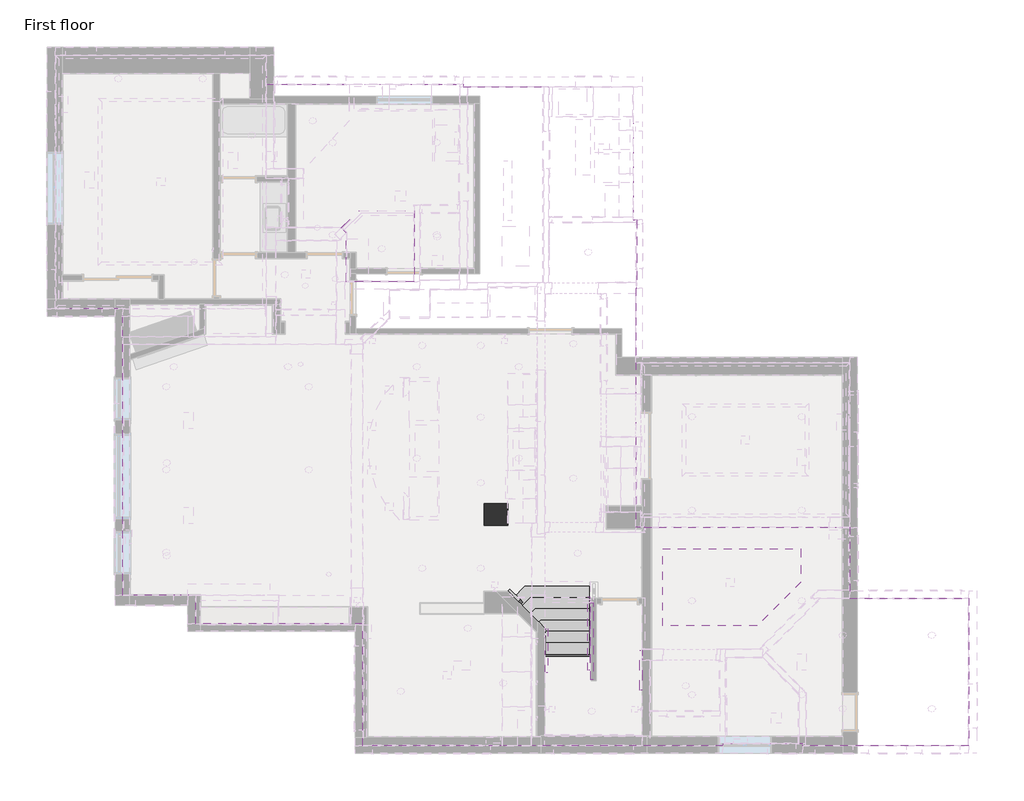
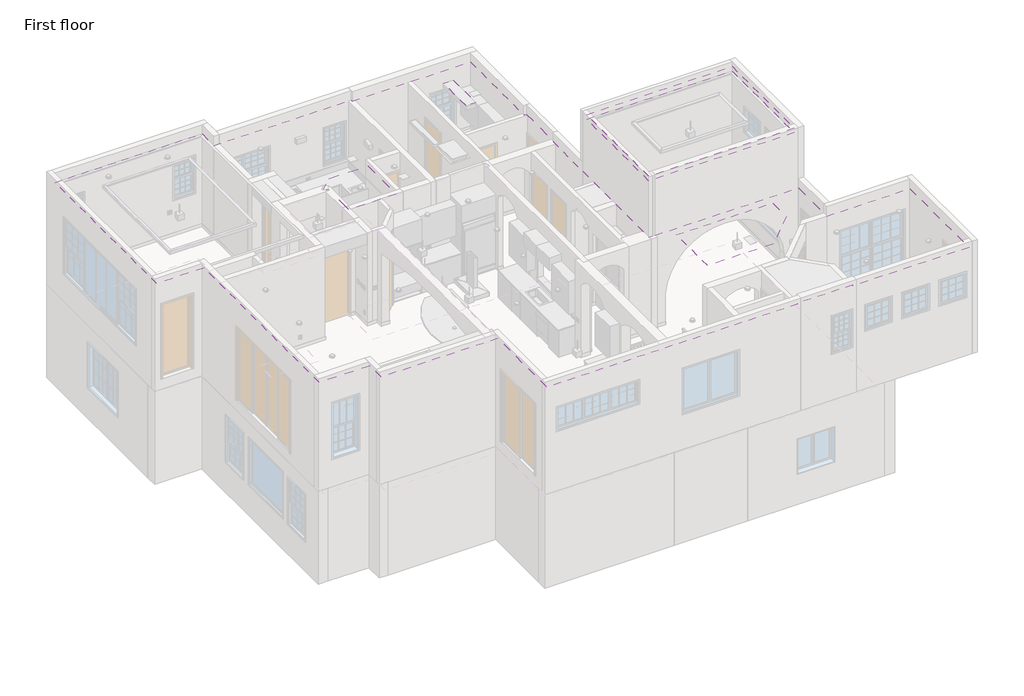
# One storey, part 10 of 14: 6 coverings, 5 railings, 1 column, 1 stair flight.
"""IFC4 building model written with IfcOpenShell, lengths in millimetres."""

from ifc_helpers import new_model, si_unit, frame, origin, place, context, project, spatial, polyline, circle_curve, outline, extrude, faceted_brep, transform, mapped, element, save
from ifc_brep_helpers import plane_surface, revolved_surface, advanced_brep
from components import railing_4_8abb609a, railing_4_2_75915b71, railing_4_2_93178abc, railing_4_3_2b835bbb, stair_flight_4c4e7644

model = new_model("IFC4")

# Units and contexts
model_context = context("Model", 3, world=origin())
ifc_project = project(units=[si_unit("LENGTHUNIT", "METRE", prefix="MILLI")], contexts=[model_context])

# Site, building, storey
site = spatial("IfcSite", under=ifc_project)
building = spatial("IfcBuilding", under=site)
storey = spatial("IfcBuildingStorey", under=building, Name="First floor", Elevation=0.0)

# Column
placement = place(None, origin())
element("IfcColumn", 1, ObjectType="M_Rectangular Column : 475 x 610mm", at=placement, inside=storey, context=model_context, shape_type="Brep", body=[
    faceted_brep([(3302.0, 5397.5, 2565.4), (2794.0, 5397.5, 2565.4), (2794.0, 4940.3, 2565.4), (3302.0, 4940.3, 2565.4), (3302.0, 5397.5, 0.0), (3302.0, 4940.3, 0.0), (2794.0, 4940.3, 0.0), (2794.0, 5397.5, 0.0), (3302.0, 5397.5, 127.0), (2794.0, 5397.5, 127.0), (2794.0, 4940.3, 127.0), (3302.0, 4940.3, 127.0)], [[[0, 1, 2, 3]], [[4, 5, 6, 7]], [[1, 0, 8, 4, 7, 9]], [[2, 1, 9, 7, 6, 10]], [[3, 2, 10, 6, 5, 11]], [[0, 3, 11, 5, 4, 8]]]),
])

# Coverings
element("IfcCovering", 2, ObjectType="Ceiling_12\"", at=placement, inside=storey, context=model_context, shape_type="AdvancedBrep", body=[
    advanced_brep(
    [(-1924.05, 15113.0, 6604.0), (-6496.05, 15113.0, 6604.0), (-6496.05, 9626.6, 6604.0), (-5029.2, 9626.6, 6604.0), (-5029.2, 3416.3, 6604.0), (-3454.4, 3416.3, 6604.0), (-3454.4, 2806.7, 6604.0), (165.1, 2806.7, 6604.0), (165.1, 165.1, 6604.0), (7956.55, 165.1, 6604.0), (7956.55, 203.2, 6604.0), (9683.75, 203.2, 6604.0), (9683.75, 165.1, 6604.0), (13284.2, 165.1, 6604.0), (13284.2, 3359.15, 6604.0), (10706.1, 3359.15, 6604.0), (10706.1, 4889.5001027, 6604.0), (6261.0999991, 4889.5001027, 6604.0), (6261.0999991, 4902.0947939, 6604.0), (6070.5999991, 4902.0947939, 6604.0), (6070.6, 8458.2, 6604.0), (6070.6, 10064.6447939, 6604.0), (6096.0, 10064.6447939, 6604.0), (6096.0, 11550.5447939, 6604.0), (6019.8, 11550.5447939, 6604.0), (6019.8, 14427.0947939, 6604.0), (2343.15, 14427.0947939, 6604.0), (2343.15, 14477.8947939, 6604.0), (-1924.05, 14477.8947939, 6604.0), (9639.3, 4432.3001027, 6604.0), (9639.3, 3697.7544094, 6604.0), (8697.4455906, 2755.9, 6604.0), (6654.8, 2755.9, 6604.0), (6654.8, 4432.3001027, 6604.0), (4778.2757813, 13727.8027641, 6604.0), (5083.0757813, 13727.8027641, 6604.0), (5083.0757813, 12508.6027641, 6604.0), (4778.2757813, 12508.6027641, 6604.0), (-2863.85, 10566.4, 6604.0), (-5556.25, 10566.4, 6604.0), (-5556.25, 14173.2, 6604.0), (-2863.85, 14173.2, 6604.0), (-6496.05, 15113.0, 6299.2), (-1924.05, 15113.0, 6299.2), (-1924.05, 14477.8947939, 6299.2), (2343.15, 14477.8947939, 6299.2), (2343.15, 14427.0947939, 6299.2), (6019.8, 14427.0947939, 6299.2), (6019.8, 11550.5447939, 6299.2), (6096.0, 11550.5447939, 6299.2), (6096.0, 10064.6447939, 6299.2), (6070.6, 10064.6447939, 6299.2), (6070.6, 8458.2, 6299.2), (6070.5999991, 4902.0947939, 6299.2), (6261.0999991, 4902.0947939, 6299.2), (6261.0999991, 4889.5001027, 6299.2), (10706.1, 4889.5001027, 6299.2), (10706.1, 3359.15, 6299.2), (13284.2, 3359.15, 6299.2), (13284.2, 165.1, 6299.2), (9683.75, 165.1, 6299.2), (9683.75, 203.2, 6299.2), (7956.55, 203.2, 6299.2), (7956.55, 165.1, 6299.2), (165.1, 165.1, 6299.2), (165.1, 2806.7, 6299.2), (-3454.4, 2806.7, 6299.2), (-3454.4, 3416.3, 6299.2), (-5029.2, 3416.3, 6299.2), (-5029.2, 9626.6, 6299.2), (-6496.05, 9626.6, 6299.2), (12547.5996069, 965.1845759, 6299.2), (12420.5996069, 965.1855584, 6299.2), (12547.5996069, 2559.0345759, 6299.2), (12420.5996069, 2559.0355584, 6299.2), (10617.1996069, 2559.0345759, 6299.2), (10490.1996069, 2559.0355584, 6299.2), (10617.1996069, 965.1845759, 6299.2), (10490.1996069, 965.1855584, 6299.2), (7213.6, 1460.4999136, 6299.2), (7086.6, 1460.5000864, 6299.2), (5181.6, 914.4009876, 6299.2), (5054.6, 914.3990124, 6299.2), (5105.4, 5219.5947939, 6299.2), (5105.4, 9728.0947939, 6299.2), (4318.0, 9728.0947939, 6299.2), (4318.0, 5219.5947939, 6299.2), (5105.4, 10845.6947939, 6299.2), (4978.4, 10845.6947939, 6299.2), (1841.5, 11176.0, 6299.2), (1714.5, 11176.0, 6299.2), (9639.3, 3697.7544094, 6299.2), (9639.3, 4432.3001027, 6299.2), (6654.8, 4432.3001027, 6299.2), (6654.8, 2755.9, 6299.2), (8697.4455906, 2755.9, 6299.2), (-5556.25, 10566.4, 6299.2), (-2863.85, 10566.4, 6299.2), (-2863.85, 14173.2, 6299.2), (-5556.25, 14173.2, 6299.2), (5083.0757813, 13727.8027641, 6299.2), (4778.2757813, 13727.8027641, 6299.2), (4778.2757813, 12508.6027641, 6299.2), (5083.0757813, 12508.6027641, 6299.2), (3721.1, 11353.6947939, 6299.2), (3238.5, 11353.6947939, 6299.2), (3238.5, 10591.6947939, 6299.2), (3721.1, 10591.6947939, 6299.2), (-920.75, 13626.9947939, 6299.2), (-920.75, 13753.9947939, 6299.2), (-5124.45, 14541.5, 6299.2), (-5124.45, 14668.5, 6299.2), (-3295.65, 14541.5, 6299.2), (-3295.65, 14668.5, 6299.2), (12420.5996069, 965.1855584, 6337.3), (12547.5996069, 965.1845759, 6337.3), (12420.5996069, 2559.0355584, 6337.3), (12547.5996069, 2559.0345759, 6337.3), (10490.1996069, 2559.0355584, 6337.3), (10617.1996069, 2559.0345759, 6337.3), (10490.1996069, 965.1855584, 6337.3), (10617.1996069, 965.1845759, 6337.3), (7086.6, 1460.5000864, 6337.3), (7213.6, 1460.4999136, 6337.3), (5054.6, 914.3990124, 6337.3), (5181.6, 914.4009876, 6337.3), (5105.4, 5219.5947939, 6451.6), (4318.0, 5219.5947939, 6451.6), (4318.0, 9728.0947939, 6451.6), (5105.4, 9728.0947939, 6451.6), (4660.8951375, 5956.2153351, 6451.6), (4787.8951375, 5956.2116994, 6451.6), (4660.9020444, 8864.4849772, 6451.6), (4787.9020443, 8864.4813416, 6451.6), (4787.8951375, 5956.2116994, 6489.7), (4660.8951375, 5956.2153351, 6489.7), (4787.9020443, 8864.4813416, 6489.7), (4660.9020444, 8864.4849772, 6489.7), (4978.4, 10845.6947939, 6337.3), (5105.4, 10845.6947939, 6337.3), (1714.5, 11176.0, 6337.3), (1841.5, 11176.0, 6337.3), (9639.3, 4432.3001027, 6451.6), (9639.3, 3697.7544094, 6451.6), (8697.4455906, 2755.9, 6451.6), (6654.8, 2755.9, 6451.6), (6654.8, 4432.3001027, 6451.6), (-2863.85, 10566.4, 6451.6), (-5556.25, 10566.4, 6451.6), (-5556.25, 14173.2, 6451.6), (-2863.85, 14173.2, 6451.6), (4778.2757813, 13727.8027641, 6451.6), (5083.0757813, 13727.8027641, 6451.6), (5083.0757813, 12508.6027641, 6451.6), (4778.2757813, 12508.6027641, 6451.6), (3238.5, 11353.6947939, 6400.8), (3721.1, 11353.6947939, 6400.8), (3721.1, 10591.6947939, 6400.8), (3238.5, 10591.6947939, 6400.8), (-920.75, 13753.9947939, 6337.3), (-920.75, 13626.9947939, 6337.3), (-5124.45, 14668.5, 6337.3), (-5124.45, 14541.5, 6337.3), (-3295.65, 14668.5, 6337.3), (-3295.65, 14541.5, 6337.3)],
    [
        (0, 1),
        (1, 2),
        (2, 3),
        (3, 4),
        (4, 5),
        (5, 6),
        (6, 7),
        (7, 8),
        (8, 9),
        (9, 10),
        (10, 11),
        (11, 12),
        (12, 13),
        (13, 14),
        (14, 15),
        (15, 16),
        (16, 17),
        (17, 18),
        (18, 19),
        (19, 20),
        (20, 21),
        (21, 22),
        (22, 23),
        (23, 24),
        (24, 25),
        (25, 26),
        (26, 27),
        (27, 28),
        (28, 0),
        (29, 30),
        (30, 31),
        (31, 32),
        (32, 33),
        (33, 29),
        (34, 35),
        (35, 36),
        (36, 37),
        (37, 34),
        (38, 39),
        (39, 40),
        (40, 41),
        (41, 38),
        (42, 43),
        (43, 44),
        (44, 45),
        (45, 46),
        (46, 47),
        (47, 48),
        (48, 49),
        (49, 50),
        (50, 51),
        (51, 52),
        (52, 53),
        (53, 54),
        (54, 55),
        (55, 56),
        (56, 57),
        (57, 58),
        (58, 59),
        (59, 60),
        (60, 61),
        (61, 62),
        (62, 63),
        (63, 64),
        (64, 65),
        (65, 66),
        (66, 67),
        (67, 68),
        (68, 69),
        (69, 70),
        (70, 42),
        (71, 72, circle_curve(frame((12484.0996069, 965.1850671, 6299.2), z_axis=(0.0, 0.0, 1.0), x_axis=(0.99999999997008, -7.7356313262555e-06, 0.0)), 63.5)),
        (72, 71, circle_curve(frame((12484.0996069, 965.1850671, 6299.2), z_axis=(0.0, 0.0, 1.0), x_axis=(0.99999999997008, -7.7356313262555e-06, 0.0)), 63.5)),
        (73, 74, circle_curve(frame((12484.0996069, 2559.0350671, 6299.2), z_axis=(0.0, 0.0, 1.0), x_axis=(0.99999999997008, -7.7356313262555e-06, 0.0)), 63.5)),
        (74, 73, circle_curve(frame((12484.0996069, 2559.0350671, 6299.2), z_axis=(0.0, 0.0, 1.0), x_axis=(0.99999999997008, -7.7356313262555e-06, 0.0)), 63.5)),
        (75, 76, circle_curve(frame((10553.6996069, 2559.0350671, 6299.2), z_axis=(0.0, 0.0, 1.0), x_axis=(0.99999999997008, -7.7356313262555e-06, 0.0)), 63.5)),
        (76, 75, circle_curve(frame((10553.6996069, 2559.0350671, 6299.2), z_axis=(0.0, 0.0, 1.0), x_axis=(0.99999999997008, -7.7356313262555e-06, 0.0)), 63.5)),
        (77, 78, circle_curve(frame((10553.6996069, 965.1850671, 6299.2), z_axis=(0.0, 0.0, 1.0), x_axis=(0.99999999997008, -7.7356313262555e-06, 0.0)), 63.5)),
        (78, 77, circle_curve(frame((10553.6996069, 965.1850671, 6299.2), z_axis=(0.0, 0.0, 1.0), x_axis=(0.99999999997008, -7.7356313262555e-06, 0.0)), 63.5)),
        (79, 80, circle_curve(frame((7150.1, 1460.5, 6299.2), z_axis=(0.0, 0.0, 1.0), x_axis=(0.9999999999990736, -1.3611479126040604e-06, 0.0)), 63.5)),
        (80, 79, circle_curve(frame((7150.1, 1460.5, 6299.2), z_axis=(0.0, 0.0, 1.0), x_axis=(0.9999999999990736, -1.3611479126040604e-06, 0.0)), 63.5)),
        (81, 82, circle_curve(frame((5118.1, 914.4, 6299.2), z_axis=(0.0, 0.0, 1.0), x_axis=(0.999999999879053, 1.5552947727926e-05, 0.0)), 63.5)),
        (82, 81, circle_curve(frame((5118.1, 914.4, 6299.2), z_axis=(0.0, 0.0, 1.0), x_axis=(0.999999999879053, 1.5552947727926e-05, 0.0)), 63.5)),
        (83, 84),
        (84, 85),
        (85, 86),
        (86, 83),
        (87, 88, circle_curve(frame((5041.9, 10845.6947939, 6299.2), z_axis=(0.0, 0.0, 1.0), x_axis=(1.0, 0.0, 0.0)), 63.5)),
        (88, 87, circle_curve(frame((5041.9, 10845.6947939, 6299.2), z_axis=(0.0, 0.0, 1.0), x_axis=(1.0, 0.0, 0.0)), 63.5)),
        (89, 90, circle_curve(frame((1778.0, 11176.0, 6299.2), z_axis=(0.0, 0.0, 1.0), x_axis=(1.0, 0.0, 0.0)), 63.5)),
        (90, 89, circle_curve(frame((1778.0, 11176.0, 6299.2), z_axis=(0.0, 0.0, 1.0), x_axis=(1.0, 0.0, 0.0)), 63.5)),
        (91, 92),
        (92, 93),
        (93, 94),
        (94, 95),
        (95, 91),
        (96, 97),
        (97, 98),
        (98, 99),
        (99, 96),
        (100, 101),
        (101, 102),
        (102, 103),
        (103, 100),
        (104, 105),
        (105, 106),
        (106, 107),
        (107, 104),
        (108, 109, circle_curve(frame((-920.75, 13690.4947939, 6299.2), z_axis=(0.0, 0.0, 1.0), x_axis=(0.0, -1.0, 0.0)), 63.5)),
        (109, 108, circle_curve(frame((-920.75, 13690.4947939, 6299.2), z_axis=(0.0, 0.0, 1.0), x_axis=(0.0, -1.0, 0.0)), 63.5)),
        (110, 111, circle_curve(frame((-5124.45, 14605.0, 6299.2), z_axis=(0.0, 0.0, 1.0), x_axis=(0.0, -1.0, 0.0)), 63.5)),
        (111, 110, circle_curve(frame((-5124.45, 14605.0, 6299.2), z_axis=(0.0, 0.0, 1.0), x_axis=(0.0, -1.0, 0.0)), 63.5)),
        (112, 113, circle_curve(frame((-3295.65, 14605.0, 6299.2), z_axis=(0.0, 0.0, 1.0), x_axis=(0.0, -1.0, 0.0)), 63.5)),
        (113, 112, circle_curve(frame((-3295.65, 14605.0, 6299.2), z_axis=(0.0, 0.0, 1.0), x_axis=(0.0, -1.0, 0.0)), 63.5)),
        (0, 43),
        (42, 1),
        (70, 2),
        (69, 3),
        (68, 4),
        (67, 5),
        (66, 6),
        (65, 7),
        (64, 8),
        (63, 9),
        (62, 10),
        (61, 11),
        (16, 56),
        (55, 17),
        (19, 53),
        (52, 20),
        (51, 21),
        (50, 22),
        (49, 23),
        (48, 24),
        (47, 25),
        (28, 44),
        (60, 12),
        (59, 13),
        (58, 14),
        (57, 15),
        (46, 26),
        (45, 27),
        (114, 115, circle_curve(frame((12484.0996069, 965.1850671, 6337.3), z_axis=(0.0, 0.0, -1.0), x_axis=(0.99999999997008, -7.7356313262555e-06, 0.0)), 63.5)),
        (115, 114, circle_curve(frame((12484.0996069, 965.1850671, 6337.3), z_axis=(0.0, 0.0, -1.0), x_axis=(0.99999999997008, -7.7356313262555e-06, 0.0)), 63.5)),
        (114, 72),
        (71, 115),
        (116, 117, circle_curve(frame((12484.0996069, 2559.0350671, 6337.3), z_axis=(0.0, 0.0, -1.0), x_axis=(0.99999999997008, -7.7356313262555e-06, 0.0)), 63.5)),
        (117, 116, circle_curve(frame((12484.0996069, 2559.0350671, 6337.3), z_axis=(0.0, 0.0, -1.0), x_axis=(0.99999999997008, -7.7356313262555e-06, 0.0)), 63.5)),
        (116, 74),
        (73, 117),
        (118, 119, circle_curve(frame((10553.6996069, 2559.0350671, 6337.3), z_axis=(0.0, 0.0, -1.0), x_axis=(0.99999999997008, -7.7356313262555e-06, 0.0)), 63.5)),
        (119, 118, circle_curve(frame((10553.6996069, 2559.0350671, 6337.3), z_axis=(0.0, 0.0, -1.0), x_axis=(0.99999999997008, -7.7356313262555e-06, 0.0)), 63.5)),
        (118, 76),
        (75, 119),
        (120, 121, circle_curve(frame((10553.6996069, 965.1850671, 6337.3), z_axis=(0.0, 0.0, -1.0), x_axis=(0.99999999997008, -7.7356313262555e-06, 0.0)), 63.5)),
        (121, 120, circle_curve(frame((10553.6996069, 965.1850671, 6337.3), z_axis=(0.0, 0.0, -1.0), x_axis=(0.99999999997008, -7.7356313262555e-06, 0.0)), 63.5)),
        (120, 78),
        (77, 121),
        (122, 123, circle_curve(frame((7150.1, 1460.5, 6337.3), z_axis=(0.0, 0.0, -1.0), x_axis=(0.9999999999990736, -1.3611479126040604e-06, 0.0)), 63.5)),
        (123, 122, circle_curve(frame((7150.1, 1460.5, 6337.3), z_axis=(0.0, 0.0, -1.0), x_axis=(0.9999999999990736, -1.3611479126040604e-06, 0.0)), 63.5)),
        (122, 80),
        (79, 123),
        (124, 125, circle_curve(frame((5118.1, 914.4, 6337.3), z_axis=(0.0, 0.0, -1.0), x_axis=(0.999999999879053, 1.5552947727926e-05, 0.0)), 63.5)),
        (125, 124, circle_curve(frame((5118.1, 914.4, 6337.3), z_axis=(0.0, 0.0, -1.0), x_axis=(0.999999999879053, 1.5552947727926e-05, 0.0)), 63.5)),
        (124, 82),
        (81, 125),
        (126, 127),
        (127, 128),
        (128, 129),
        (129, 126),
        (130, 131, circle_curve(frame((4724.3951375, 5956.2135172, 6451.6), z_axis=(0.0, 0.0, 1.0), x_axis=(-0.9999999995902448, 2.862709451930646e-05, 0.0)), 63.5)),
        (131, 130, circle_curve(frame((4724.3951375, 5956.2135172, 6451.6), z_axis=(0.0, 0.0, 1.0), x_axis=(-0.9999999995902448, 2.862709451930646e-05, 0.0)), 63.5)),
        (132, 133, circle_curve(frame((4724.4020444, 8864.4831594, 6451.6), z_axis=(0.0, 0.0, 1.0), x_axis=(-0.9999999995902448, 2.862709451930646e-05, 0.0)), 63.5)),
        (133, 132, circle_curve(frame((4724.4020444, 8864.4831594, 6451.6), z_axis=(0.0, 0.0, 1.0), x_axis=(-0.9999999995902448, 2.862709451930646e-05, 0.0)), 63.5)),
        (129, 84),
        (83, 126),
        (128, 85),
        (127, 86),
        (134, 135, circle_curve(frame((4724.3951375, 5956.2135172, 6489.7), z_axis=(0.0, 0.0, -1.0), x_axis=(-0.9999999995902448, 2.862709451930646e-05, 0.0)), 63.5)),
        (135, 134, circle_curve(frame((4724.3951375, 5956.2135172, 6489.7), z_axis=(0.0, 0.0, -1.0), x_axis=(-0.9999999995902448, 2.862709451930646e-05, 0.0)), 63.5)),
        (134, 131),
        (130, 135),
        (136, 137, circle_curve(frame((4724.4020444, 8864.4831594, 6489.7), z_axis=(0.0, 0.0, -1.0), x_axis=(-0.9999999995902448, 2.862709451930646e-05, 0.0)), 63.5)),
        (137, 136, circle_curve(frame((4724.4020444, 8864.4831594, 6489.7), z_axis=(0.0, 0.0, -1.0), x_axis=(-0.9999999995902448, 2.862709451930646e-05, 0.0)), 63.5)),
        (136, 133),
        (132, 137),
        (138, 139, circle_curve(frame((5041.9, 10845.6947939, 6337.3), z_axis=(0.0, 0.0, -1.0), x_axis=(1.0, 0.0, 0.0)), 63.5)),
        (139, 138, circle_curve(frame((5041.9, 10845.6947939, 6337.3), z_axis=(0.0, 0.0, -1.0), x_axis=(1.0, 0.0, 0.0)), 63.5)),
        (138, 88),
        (87, 139),
        (140, 141, circle_curve(frame((1778.0, 11176.0, 6337.3), z_axis=(0.0, 0.0, -1.0), x_axis=(1.0, 0.0, 0.0)), 63.5)),
        (141, 140, circle_curve(frame((1778.0, 11176.0, 6337.3), z_axis=(0.0, 0.0, -1.0), x_axis=(1.0, 0.0, 0.0)), 63.5)),
        (140, 90),
        (89, 141),
        (29, 142),
        (142, 92),
        (91, 143),
        (143, 30),
        (95, 144),
        (144, 31),
        (94, 145),
        (145, 32),
        (93, 146),
        (146, 33),
        (38, 147),
        (147, 97),
        (96, 148),
        (148, 39),
        (99, 149),
        (149, 40),
        (98, 150),
        (150, 41),
        (34, 151),
        (151, 101),
        (100, 152),
        (152, 35),
        (103, 153),
        (153, 36),
        (102, 154),
        (154, 37),
        (155, 156),
        (156, 157),
        (157, 158),
        (158, 155),
        (155, 105),
        (104, 156),
        (107, 157),
        (106, 158),
        (159, 160, circle_curve(frame((-920.75, 13690.4947939, 6337.3), z_axis=(0.0, 0.0, -1.0), x_axis=(0.0, -1.0, 0.0)), 63.5)),
        (160, 159, circle_curve(frame((-920.75, 13690.4947939, 6337.3), z_axis=(0.0, 0.0, -1.0), x_axis=(0.0, -1.0, 0.0)), 63.5)),
        (159, 109),
        (108, 160),
        (161, 162, circle_curve(frame((-5124.45, 14605.0, 6337.3), z_axis=(0.0, 0.0, -1.0), x_axis=(0.0, -1.0, 0.0)), 63.5)),
        (162, 161, circle_curve(frame((-5124.45, 14605.0, 6337.3), z_axis=(0.0, 0.0, -1.0), x_axis=(0.0, -1.0, 0.0)), 63.5)),
        (161, 111),
        (110, 162),
        (163, 164, circle_curve(frame((-3295.65, 14605.0, 6337.3), z_axis=(0.0, 0.0, -1.0), x_axis=(0.0, -1.0, 0.0)), 63.5)),
        (164, 163, circle_curve(frame((-3295.65, 14605.0, 6337.3), z_axis=(0.0, 0.0, -1.0), x_axis=(0.0, -1.0, 0.0)), 63.5)),
        (163, 113),
        (112, 164),
        (54, 18),
    ],
    [
        plane_surface(frame((-6496.05, 15113.0, 6604.0), z_axis=(0.0, 0.0, 1.0), x_axis=(-1.0, 0.0, 0.0))),
        plane_surface(frame((-6496.05, 15113.0, 6299.2), z_axis=(0.0, 0.0, -1.0), x_axis=(1.0, 0.0, 0.0))),
        plane_surface(frame((-1924.05, 15113.0, 6604.0), z_axis=(0.0, 1.0, 0.0), x_axis=(0.0, 0.0, -1.0))),
        plane_surface(frame((-6496.05, 15113.0, 6604.0), z_axis=(-1.0, 0.0, 0.0), x_axis=(0.0, 0.0, -1.0))),
        plane_surface(frame((-6496.05, 9626.6, 6604.0), z_axis=(0.0, -1.0, 0.0), x_axis=(0.0, 0.0, -1.0))),
        plane_surface(frame((-5029.2, 9626.6, 6604.0), z_axis=(-1.0, 0.0, 0.0), x_axis=(0.0, 0.0, -1.0))),
        plane_surface(frame((-5029.2, 3416.3, 6604.0), z_axis=(0.0, -1.0, 0.0), x_axis=(0.0, 0.0, -1.0))),
        plane_surface(frame((-3454.4, 3416.3, 6604.0), z_axis=(-1.0, 0.0, 0.0), x_axis=(0.0, 0.0, -1.0))),
        plane_surface(frame((-3454.4, 2806.7, 6604.0), z_axis=(0.0, -1.0, 0.0), x_axis=(0.0, 0.0, -1.0))),
        plane_surface(frame((165.1, 2806.7, 6604.0), z_axis=(-1.0, 0.0, 0.0), x_axis=(0.0, 0.0, -1.0))),
        plane_surface(frame((165.1, 165.1, 6604.0), z_axis=(0.0, -1.0, 0.0), x_axis=(0.0, 0.0, -1.0))),
        plane_surface(frame((7956.55, 165.1, 6604.0), z_axis=(1.0, 0.0, 0.0), x_axis=(0.0, 0.0, -1.0))),
        plane_surface(frame((7956.55, 203.2, 6604.0), z_axis=(0.0, -1.0, 0.0), x_axis=(0.0, 0.0, -1.0))),
        plane_surface(frame((10706.1, 4889.5001027, 6604.0), z_axis=(0.0, 1.0, 0.0), x_axis=(0.0, 0.0, -1.0))),
        plane_surface(frame((6070.5999991, 4902.0947939, 6604.0), z_axis=(1.0, -2.630384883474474e-10, 0.0), x_axis=(0.0, 0.0, -1.0))),
        plane_surface(frame((6070.6, 8458.2, 6604.0), z_axis=(1.0, 0.0, 0.0), x_axis=(0.0, 0.0, -1.0))),
        plane_surface(frame((6070.6, 10064.6447939, 6604.0), z_axis=(0.0, -1.0, 0.0), x_axis=(0.0, 0.0, -1.0))),
        plane_surface(frame((6096.0, 10064.6447939, 6604.0), z_axis=(1.0, 0.0, 0.0), x_axis=(0.0, 0.0, -1.0))),
        plane_surface(frame((6096.0, 11550.5447939, 6604.0), z_axis=(0.0, 1.0, 0.0), x_axis=(0.0, 0.0, -1.0))),
        plane_surface(frame((6019.8, 11550.5447939, 6604.0), z_axis=(1.0, 0.0, 0.0), x_axis=(0.0, 0.0, -1.0))),
        plane_surface(frame((-1924.05, 14477.8947939, 6604.0), z_axis=(1.0, 0.0, 0.0), x_axis=(0.0, 0.0, -1.0))),
        plane_surface(frame((9683.75, 203.2, 6604.0), z_axis=(-1.0, 0.0, 0.0), x_axis=(0.0, 0.0, -1.0))),
        plane_surface(frame((9683.75, 165.1, 6604.0), z_axis=(0.0, -1.0, 0.0), x_axis=(0.0, 0.0, -1.0))),
        plane_surface(frame((13284.2, 165.1, 6604.0), z_axis=(1.0, 0.0, 0.0), x_axis=(0.0, 0.0, -1.0))),
        plane_surface(frame((13284.2, 3359.15, 6604.0), z_axis=(0.0, 1.0, 0.0), x_axis=(0.0, 0.0, -1.0))),
        plane_surface(frame((10706.1, 3359.15, 6604.0), z_axis=(1.0, 0.0, 0.0), x_axis=(0.0, 0.0, -1.0))),
        plane_surface(frame((6019.8, 14427.0947939, 6604.0), z_axis=(0.0, 1.0, 0.0), x_axis=(0.0, 0.0, -1.0))),
        plane_surface(frame((2343.15, 14427.0947939, 6604.0), z_axis=(1.0, 0.0, 0.0), x_axis=(0.0, 0.0, -1.0))),
        plane_surface(frame((2343.15, 14477.8947939, 6604.0), z_axis=(0.0, 1.0, 0.0), x_axis=(0.0, 0.0, -1.0))),
        plane_surface(frame((12547.5996069, 965.1845759, 6337.3), z_axis=(0.0, 0.0, -1.0), x_axis=(7.7356313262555e-06, 0.99999999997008, 0.0))),
        revolved_surface(polyline([(12547.5996068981, 965.1845758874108, 6299.2), (12547.5996068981, 965.1845758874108, 6337.3)]), (12484.0996069, 965.1850671, 6337.3), (0.0, 0.0, -1.0)),
        plane_surface(frame((12547.5996069, 2559.0345759, 6337.3), z_axis=(0.0, 0.0, -1.0), x_axis=(7.7356313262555e-06, 0.99999999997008, 0.0))),
        revolved_surface(polyline([(12547.5996068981, 2559.034575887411, 6299.2), (12547.5996068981, 2559.034575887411, 6337.3)]), (12484.0996069, 2559.0350671, 6337.3), (0.0, 0.0, -1.0)),
        plane_surface(frame((10617.1996069, 2559.0345759, 6337.3), z_axis=(0.0, 0.0, -1.0), x_axis=(7.7356313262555e-06, 0.99999999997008, 0.0))),
        revolved_surface(polyline([(10617.1996068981, 2559.034575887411, 6299.2), (10617.1996068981, 2559.034575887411, 6337.3)]), (10553.6996069, 2559.0350671, 6337.3), (0.0, 0.0, -1.0)),
        plane_surface(frame((10617.1996069, 965.1845759, 6337.3), z_axis=(0.0, 0.0, -1.0), x_axis=(7.7356313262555e-06, 0.99999999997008, 0.0))),
        revolved_surface(polyline([(10617.1996068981, 965.1845758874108, 6299.2), (10617.1996068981, 965.1845758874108, 6337.3)]), (10553.6996069, 965.1850671, 6337.3), (0.0, 0.0, -1.0)),
        plane_surface(frame((7213.6, 1460.4999136, 6337.3), z_axis=(0.0, 0.0, -1.0), x_axis=(1.3611479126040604e-06, 0.9999999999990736, 0.0))),
        revolved_surface(polyline([(7213.599999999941, 1460.4999135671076, 6299.2), (7213.599999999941, 1460.4999135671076, 6337.3)]), (7150.1, 1460.5, 6337.3), (0.0, 0.0, -1.0)),
        plane_surface(frame((5181.6, 914.4009876, 6337.3), z_axis=(0.0, 0.0, -1.0000000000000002), x_axis=(-1.5552947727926e-05, 0.999999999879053, 0.0))),
        revolved_surface(polyline([(5181.599999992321, 914.4009876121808, 6299.2), (5181.599999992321, 914.4009876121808, 6337.3)]), (5118.1, 914.4, 6337.3), (0.0, 0.0, -1.0)),
        plane_surface(frame((5105.4, 9943.9947939, 6451.6), z_axis=(0.0, 0.0, -1.0), x_axis=(0.0, 1.0, 0.0))),
        plane_surface(frame((5105.4, 5219.5947939, 6451.6), z_axis=(-1.0, 0.0, 0.0), x_axis=(0.0, 0.0, -1.0))),
        plane_surface(frame((5105.4, 9728.0947939, 6451.6), z_axis=(0.0, -1.0, 0.0), x_axis=(0.0, 0.0, -1.0))),
        plane_surface(frame((4318.0, 9728.0947939, 6451.6), z_axis=(1.0, 0.0, 0.0), x_axis=(0.0, 0.0, -1.0))),
        plane_surface(frame((4318.0, 5219.5947939, 6451.6), z_axis=(0.0, 1.0, 0.0), x_axis=(0.0, 0.0, -1.0))),
        plane_surface(frame((4660.8951375, 5956.2153351, 6489.7), z_axis=(0.0, 0.0, -1.0), x_axis=(-2.862709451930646e-05, -0.9999999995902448, 0.0))),
        revolved_surface(polyline([(4660.895137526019, 5956.215335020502, 6451.6), (4660.895137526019, 5956.215335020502, 6489.7)]), (4724.3951375, 5956.2135172, 6489.7), (0.0, 0.0, -1.0)),
        plane_surface(frame((4660.9020444, 8864.4849772, 6489.7), z_axis=(0.0, 0.0, -1.0), x_axis=(-2.862709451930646e-05, -0.9999999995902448, 0.0))),
        revolved_surface(polyline([(4660.9020444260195, 8864.484977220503, 6451.6), (4660.9020444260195, 8864.484977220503, 6489.7)]), (4724.4020444, 8864.4831594, 6489.7), (0.0, 0.0, -1.0)),
        plane_surface(frame((5105.4, 10845.6947939, 6337.3), z_axis=(0.0, 0.0, -1.0), x_axis=(0.0, 1.0, 0.0))),
        revolved_surface(polyline([(5105.4, 10845.6947939, 6299.2), (5105.4, 10845.6947939, 6337.3)]), (5041.9, 10845.6947939, 6337.3), (0.0, 0.0, -1.0)),
        plane_surface(frame((1841.5, 11176.0, 6337.3), z_axis=(0.0, 0.0, -1.0), x_axis=(0.0, 1.0, 0.0))),
        revolved_surface(polyline([(1841.5, 11176.0, 6299.2), (1841.5, 11176.0, 6337.3)]), (1778.0, 11176.0, 6337.3), (0.0, 0.0, -1.0)),
        plane_surface(frame((9639.3, 4432.3001027, 6604.0), z_axis=(-1.0, 0.0, 0.0), x_axis=(0.0, 0.0, -1.0))),
        plane_surface(frame((9639.3, 3697.7544094, 6604.0), z_axis=(-0.7071067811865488, 0.7071067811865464, 0.0), x_axis=(0.0, 0.0, -1.0))),
        plane_surface(frame((8697.4455906, 2755.9, 6604.0), z_axis=(0.0, 1.0, 0.0), x_axis=(0.0, 0.0, -1.0))),
        plane_surface(frame((6654.8, 2755.9, 6604.0), z_axis=(1.0, 0.0, 0.0), x_axis=(0.0, 0.0, -1.0))),
        plane_surface(frame((6654.8, 4432.3001027, 6604.0), z_axis=(0.0, -1.0, 0.0), x_axis=(0.0, 0.0, -1.0))),
        plane_surface(frame((-2863.85, 10566.4, 6604.0), z_axis=(0.0, 1.0, 0.0), x_axis=(0.0, 0.0, -1.0))),
        plane_surface(frame((-5556.25, 10566.4, 6604.0), z_axis=(1.0, 0.0, 0.0), x_axis=(0.0, 0.0, -1.0))),
        plane_surface(frame((-5556.25, 14173.2, 6604.0), z_axis=(0.0, -1.0, 0.0), x_axis=(0.0, 0.0, -1.0))),
        plane_surface(frame((-2863.85, 14173.2, 6604.0), z_axis=(-1.0, 0.0, 0.0), x_axis=(0.0, 0.0, -1.0))),
        plane_surface(frame((4778.2757813, 13727.8027641, 6604.0), z_axis=(0.0, -1.0, 0.0), x_axis=(0.0, 0.0, -1.0))),
        plane_surface(frame((5083.0757813, 13727.8027641, 6604.0), z_axis=(-1.0, 0.0, 0.0), x_axis=(0.0, 0.0, -1.0))),
        plane_surface(frame((5083.0757813, 12508.6027641, 6604.0), z_axis=(0.0, 1.0, 0.0), x_axis=(0.0, 0.0, -1.0))),
        plane_surface(frame((4778.2757813, 12508.6027641, 6604.0), z_axis=(1.0, 0.0, 0.0), x_axis=(0.0, 0.0, -1.0))),
        plane_surface(frame((3721.1, 11353.6947939, 6400.8), z_axis=(0.0, 0.0, -1.0), x_axis=(-1.0, 0.0, 0.0))),
        plane_surface(frame((3238.5, 11353.6947939, 6299.2), z_axis=(0.0, -1.0, 0.0), x_axis=(0.0, 0.0, 1.0))),
        plane_surface(frame((3721.1, 11353.6947939, 6299.2), z_axis=(-1.0, 0.0, 0.0), x_axis=(0.0, 0.0, 1.0))),
        plane_surface(frame((3721.1, 10591.6947939, 6299.2), z_axis=(0.0, 1.0, 0.0), x_axis=(0.0, 0.0, 1.0))),
        plane_surface(frame((3238.5, 10591.6947939, 6299.2), z_axis=(1.0, 0.0, 0.0), x_axis=(0.0, 0.0, 1.0))),
        plane_surface(frame((-920.75, 13626.9947939, 6337.3), z_axis=(0.0, 0.0, -1.0), x_axis=(1.0, 0.0, 0.0))),
        revolved_surface(polyline([(-920.75, 13626.9947939, 6299.2), (-920.75, 13626.9947939, 6337.3)]), (-920.75, 13690.4947939, 6337.3), (0.0, 0.0, -1.0)),
        plane_surface(frame((-5124.45, 14541.5, 6337.3), z_axis=(0.0, 0.0, -1.0), x_axis=(1.0, 0.0, 0.0))),
        revolved_surface(polyline([(-5124.45, 14541.5, 6299.2), (-5124.45, 14541.5, 6337.3)]), (-5124.45, 14605.0, 6337.3), (0.0, 0.0, -1.0)),
        plane_surface(frame((-3295.65, 14541.5, 6337.3), z_axis=(0.0, 0.0, -1.0), x_axis=(1.0, 0.0, 0.0))),
        revolved_surface(polyline([(-3295.65, 14541.5, 6299.2), (-3295.65, 14541.5, 6337.3)]), (-3295.65, 14605.0, 6337.3), (0.0, 0.0, -1.0)),
        plane_surface(frame((6261.0999991, 4889.5001027, 6604.0), z_axis=(1.0, 0.0, 0.0), x_axis=(0.0, 0.0, -1.0))),
        plane_surface(frame((6261.0999991, 4902.0947939, 6604.0), z_axis=(0.0, 1.0, 0.0), x_axis=(0.0, 0.0, -1.0))),
    ],
    [
        (0, [[1, 2, 3, 4, 5, 6, 7, 8, 9, 10, 11, 12, 13, 14, 15, 16, 17, 18, 19, 20, 21, 22, 23, 24, 25, 26, 27, 28, 29], [30, 31, 32, 33, 34], [35, 36, 37, 38], [39, 40, 41, 42]]),
        (1, [[43, 44, 45, 46, 47, 48, 49, 50, 51, 52, 53, 54, 55, 56, 57, 58, 59, 60, 61, 62, 63, 64, 65, 66, 67, 68, 69, 70, 71], [72, 73], [74, 75], [76, 77], [78, 79], [80, 81], [82, 83], [84, 85, 86, 87], [88, 89], [90, 91], [92, 93, 94, 95, 96], [97, 98, 99, 100], [101, 102, 103, 104], [105, 106, 107, 108], [109, 110], [111, 112], [113, 114]]),
        (2, [[-1, 115, -43, 116]]),
        (3, [[-2, -116, -71, 117]]),
        (4, [[-3, -117, -70, 118]]),
        (5, [[-4, -118, -69, 119]]),
        (6, [[-5, -119, -68, 120]]),
        (7, [[-6, -120, -67, 121]]),
        (8, [[-7, -121, -66, 122]]),
        (9, [[-8, -122, -65, 123]]),
        (10, [[-9, -123, -64, 124]]),
        (11, [[-10, -124, -63, 125]]),
        (12, [[-11, -125, -62, 126]]),
        (13, [[-17, 127, -56, 128]]),
        (14, [[-20, 129, -53, 130]]),
        (15, [[-21, -130, -52, 131]]),
        (16, [[-22, -131, -51, 132]]),
        (17, [[-23, -132, -50, 133]]),
        (18, [[-24, -133, -49, 134]]),
        (19, [[-25, -134, -48, 135]]),
        (20, [[-29, 136, -44, -115]]),
        (21, [[-12, -126, -61, 137]]),
        (22, [[-13, -137, -60, 138]]),
        (23, [[-14, -138, -59, 139]]),
        (24, [[-15, -139, -58, 140]]),
        (25, [[-16, -140, -57, -127]]),
        (26, [[-26, -135, -47, 141]]),
        (27, [[-27, -141, -46, 142]]),
        (28, [[-28, -142, -45, -136]]),
        (29, [[143, 144]]),
        (30, [[-143, 145, -72, 146]]),
        (30, [[-144, -146, -73, -145]]),
        (31, [[147, 148]]),
        (32, [[-147, 149, -74, 150]]),
        (32, [[-148, -150, -75, -149]]),
        (33, [[151, 152]]),
        (34, [[-151, 153, -76, 154]]),
        (34, [[-152, -154, -77, -153]]),
        (35, [[155, 156]]),
        (36, [[-155, 157, -78, 158]]),
        (36, [[-156, -158, -79, -157]]),
        (37, [[159, 160]]),
        (38, [[-159, 161, -80, 162]]),
        (38, [[-160, -162, -81, -161]]),
        (39, [[163, 164]]),
        (40, [[-163, 165, -82, 166]]),
        (40, [[-164, -166, -83, -165]]),
        (41, [[167, 168, 169, 170], [171, 172], [173, 174]]),
        (42, [[-170, 175, -84, 176]]),
        (43, [[-169, 177, -85, -175]]),
        (44, [[-168, 178, -86, -177]]),
        (45, [[-167, -176, -87, -178]]),
        (46, [[179, 180]]),
        (47, [[-179, 181, -171, 182]]),
        (47, [[-180, -182, -172, -181]]),
        (48, [[183, 184]]),
        (49, [[-183, 185, -173, 186]]),
        (49, [[-184, -186, -174, -185]]),
        (50, [[187, 188]]),
        (51, [[-187, 189, -88, 190]]),
        (51, [[-188, -190, -89, -189]]),
        (52, [[191, 192]]),
        (53, [[-191, 193, -90, 194]]),
        (53, [[-192, -194, -91, -193]]),
        (54, [[-30, 195, 196, -92, 197, 198]]),
        (55, [[-31, -198, -197, -96, 199, 200]]),
        (56, [[-32, -200, -199, -95, 201, 202]]),
        (57, [[-33, -202, -201, -94, 203, 204]]),
        (58, [[-34, -204, -203, -93, -196, -195]]),
        (59, [[-39, 205, 206, -97, 207, 208]]),
        (60, [[-40, -208, -207, -100, 209, 210]]),
        (61, [[-41, -210, -209, -99, 211, 212]]),
        (62, [[-42, -212, -211, -98, -206, -205]]),
        (63, [[-35, 213, 214, -101, 215, 216]]),
        (64, [[-36, -216, -215, -104, 217, 218]]),
        (65, [[-37, -218, -217, -103, 219, 220]]),
        (66, [[-38, -220, -219, -102, -214, -213]]),
        (67, [[221, 222, 223, 224]]),
        (68, [[-221, 225, -105, 226]]),
        (69, [[-222, -226, -108, 227]]),
        (70, [[-223, -227, -107, 228]]),
        (71, [[-224, -228, -106, -225]]),
        (72, [[229, 230]]),
        (73, [[-229, 231, -109, 232]]),
        (73, [[-230, -232, -110, -231]]),
        (74, [[233, 234]]),
        (75, [[-233, 235, -111, 236]]),
        (75, [[-234, -236, -112, -235]]),
        (76, [[237, 238]]),
        (77, [[-237, 239, -113, 240]]),
        (77, [[-238, -240, -114, -239]]),
        (78, [[-18, -128, -55, 241]]),
        (79, [[-19, -241, -54, -129]]),
    ],
),
])
element("IfcCovering", 3, ObjectType="Ceiling_5.25\"", at=placement, inside=storey, context=model_context, shape_type="AdvancedBrep", body=[
    advanced_brep(
    [(-190.5, 10210.8, 6299.2), (1282.7, 10210.8, 6299.2), (1282.7, 11747.5, 6299.2), (76.0550382, 11747.5, 6299.2), (-298.45, 11379.2, 6299.2), (-190.5, 11271.25, 6299.2), (1282.7, 10210.8, 6165.85), (-190.5, 10210.8, 6165.85), (-190.5, 11271.25, 6165.85), (-298.45, 11379.2, 6165.85), (76.0550382, 11747.5, 6165.85), (1282.7, 11747.5, 6165.85), (635.0, 10922.0, 6165.85), (508.0, 10922.0, 6165.85), (508.0, 10922.0, 6203.95), (635.0, 10922.0, 6203.95)],
    [
        (0, 1),
        (1, 2),
        (2, 3),
        (3, 4),
        (4, 5),
        (5, 0),
        (6, 7),
        (7, 8),
        (8, 9),
        (9, 10),
        (10, 11),
        (11, 6),
        (12, 13, circle_curve(frame((571.5, 10922.0, 6165.85), z_axis=(0.0, 0.0, 1.0), x_axis=(1.0, 0.0, 0.0)), 63.5)),
        (13, 12, circle_curve(frame((571.5, 10922.0, 6165.85), z_axis=(0.0, 0.0, 1.0), x_axis=(1.0, 0.0, 0.0)), 63.5)),
        (0, 7),
        (6, 1),
        (11, 2),
        (10, 3),
        (9, 4),
        (8, 5),
        (14, 15, circle_curve(frame((571.5, 10922.0, 6203.95), z_axis=(0.0, 0.0, -1.0), x_axis=(1.0, 0.0, 0.0)), 63.5)),
        (15, 14, circle_curve(frame((571.5, 10922.0, 6203.95), z_axis=(0.0, 0.0, -1.0), x_axis=(1.0, 0.0, 0.0)), 63.5)),
        (14, 13),
        (12, 15),
    ],
    [
        plane_surface(frame((-190.5, 10210.8, 6299.2), z_axis=(0.0, 0.0, 1.0), x_axis=(1.0, 0.0, 0.0))),
        plane_surface(frame((-190.5, 10210.8, 6165.85), z_axis=(0.0, 0.0, -1.0), x_axis=(-1.0, 0.0, 0.0))),
        plane_surface(frame((-190.5, 10210.8, 6299.2), z_axis=(0.0, -1.0, 0.0), x_axis=(0.0, 0.0, -1.0))),
        plane_surface(frame((1282.7, 10210.8, 6299.2), z_axis=(1.0, 0.0, 0.0), x_axis=(0.0, 0.0, -1.0))),
        plane_surface(frame((1282.7, 11747.5, 6299.2), z_axis=(0.0, 1.0, 0.0), x_axis=(0.0, 0.0, -1.0))),
        plane_surface(frame((76.0550382, 11747.5, 6299.2), z_axis=(-0.7011754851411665, 0.7129887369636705, 0.0), x_axis=(0.0, 0.0, -1.0))),
        plane_surface(frame((-298.45, 11379.2, 6299.2), z_axis=(-0.7071067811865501, -0.707106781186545, 0.0), x_axis=(0.0, 0.0, -1.0))),
        plane_surface(frame((-190.5, 11271.25, 6299.2), z_axis=(-1.0, 0.0, 0.0), x_axis=(0.0, 0.0, -1.0))),
        plane_surface(frame((635.0, 10922.0, 6203.95), z_axis=(0.0, 0.0, -1.0), x_axis=(0.0, 1.0, 0.0))),
        revolved_surface(polyline([(635.0, 10922.0, 6165.85), (635.0, 10922.0, 6203.95)]), (571.5, 10922.0, 6203.95), (0.0, 0.0, -1.0)),
    ],
    [
        (0, [[1, 2, 3, 4, 5, 6]]),
        (1, [[7, 8, 9, 10, 11, 12], [13, 14]]),
        (2, [[-1, 15, -7, 16]]),
        (3, [[-2, -16, -12, 17]]),
        (4, [[-3, -17, -11, 18]]),
        (5, [[-4, -18, -10, 19]]),
        (6, [[-5, -19, -9, 20]]),
        (7, [[-6, -20, -8, -15]]),
        (8, [[21, 22]]),
        (9, [[-21, 23, -13, 24]]),
        (9, [[-22, -24, -14, -23]]),
    ],
),
])
element("IfcCovering", 4, ObjectType="Ceiling_6\"", at=placement, inside=storey, context=model_context, shape_type="SweptSolid", body=[
    extrude(outline(polyline([(6184.8999991, 8458.2), (10706.1, 8458.2), (10706.1, 5105.4001027), (6184.8999991, 5105.4001027), (6184.8999991, 8458.2)]), holes=[polyline([(9817.1, 5994.4), (9817.1, 7569.2), (7073.9, 7569.2), (7073.9, 5994.4), (9817.1, 5994.4)])]), frame((0.0, 0.0, 7975.6), z_axis=(0.0, 0.0, 1.0), x_axis=(1.0, 0.0, 0.0)), (0.0, 0.0, 1.0), 152.4),
])
element("IfcCovering", 5, ObjectType="Ceiling_6\"", at=placement, inside=storey, context=model_context, shape_type="SweptSolid", body=[
    extrude(outline(polyline([(6184.8999991, 8458.2), (10706.1, 8458.2), (10706.1, 5105.4001027), (6184.8999991, 5105.4001027), (6184.8999991, 8458.2)])), frame((0.0, 0.0, 8128.0), z_axis=(0.0, 0.0, 1.0), x_axis=(1.0, 0.0, 0.0)), (0.0, 0.0, 1.0), 152.4),
])
element("IfcCovering", 6, ObjectType="Ceiling_6\"", at=placement, inside=storey, context=model_context, shape_type="SweptSolid", body=[
    extrude(outline(polyline([(6654.8, 4432.3001027), (9639.3, 4432.3001027), (9639.3, 3697.7544094), (8697.4455906, 2755.9), (6654.8, 2755.9), (6654.8, 4432.3001027)])), frame((0.0, 0.0, 6451.6), z_axis=(0.0, 0.0, 1.0), x_axis=(1.0, 0.0, 0.0)), (0.0, 0.0, 1.0), 152.4),
])
element("IfcCovering", 7, ObjectType="Ceiling_6\"", at=placement, inside=storey, context=model_context, shape_type="SweptSolid", body=[
    extrude(outline(polyline([(5083.0757813, 12508.6027641), (4778.2757813, 12508.6027641), (4778.2757813, 13727.8027641), (5083.0757813, 13727.8027641), (5083.0757813, 12508.6027641)])), frame((0.0, 0.0, 6451.6), z_axis=(0.0, 0.0, 1.0), x_axis=(1.0, 0.0, 0.0)), (0.0, 0.0, 1.0), 152.4),
])

# Railings
element("IfcRailing", 8, ObjectType="Railing_1.3 2", at=placement, inside=storey, context=model_context, shape_type="SolidModel", body=[
    faceted_brep([(5098.996836, 1588.4217932, 2818.0698147), (5098.996836, 1588.4217932, 2753.4293695), (5149.796836, 1588.4217932, 2753.4293695), (5149.796836, 1588.4217932, 2818.0698147), (5098.996836, 3058.8857212, 3975.1), (5098.996836, 3076.4754744, 3924.3), (5149.796836, 3076.4754744, 3924.3), (5149.796836, 3058.8857212, 3975.1), (5098.996836, 3258.4717932, 3975.1), (5149.796836, 3258.4717932, 3975.1), (5149.796836, 3258.4717932, 3924.3), (5098.996836, 3258.4717932, 3924.3)], [[[0, 1, 2, 3]], [[1, 0, 4, 5]], [[2, 1, 5, 6]], [[3, 2, 6, 7]], [[0, 3, 7, 4]], [[8, 9, 10, 11]], [[5, 4, 8, 11]], [[6, 5, 11, 10]], [[7, 6, 10, 9]], [[4, 7, 9, 8]]]),
    faceted_brep([(5149.796836, 1588.4217932, 1954.4698147), (5098.996836, 1588.4217932, 1954.4698147), (5098.996836, 1588.4217932, 1889.8293695), (5149.796836, 1588.4217932, 1889.8293695), (5149.796836, 3058.8857212, 3111.5), (5098.996836, 3058.8857212, 3111.5), (5098.996836, 3076.4754744, 3060.7), (5149.796836, 3076.4754744, 3060.7), (5149.796836, 3258.4717932, 3111.5), (5149.796836, 3258.4717932, 3060.7), (5098.996836, 3258.4717932, 3060.7), (5098.996836, 3258.4717932, 3111.5)], [[[0, 1, 2, 3]], [[1, 0, 4, 5]], [[2, 1, 5, 6]], [[3, 2, 6, 7]], [[0, 3, 7, 4]], [[8, 9, 10, 11]], [[5, 4, 8, 11]], [[6, 5, 11, 10]], [[7, 6, 10, 9]], [[4, 7, 9, 8]]]),
    extrude(outline(polyline([(5133.921836, 3204.4967932), (5114.871836, 3204.4967932), (5114.871836, 3223.5467932), (5133.921836, 3223.5467932), (5133.921836, 3204.4967932)])), frame((0.0, 0.0, 3111.5), z_axis=(0.0, 0.0, 1.0), x_axis=(1.0, 0.0, 0.0)), (0.0, 0.0, 1.0), 812.8),
    extrude(outline(polyline([(5133.921836, 3102.8967932), (5114.871836, 3102.8967932), (5114.871836, 3121.9467932), (5133.921836, 3121.9467932), (5133.921836, 3102.8967932)])), frame((0.0, 0.0, 3111.5), z_axis=(0.0, 0.0, 1.0), x_axis=(1.0, 0.0, 0.0)), (0.0, 0.0, 1.0), 812.8),
    extrude(outline(polyline([(3001.2967932, 3865.1458774), (3020.3467932, 3880.1353135), (3020.3467932, 3081.1757587), (3001.2967932, 3066.1863226), (3001.2967932, 3865.1458774)])), frame((5114.871836, 0.0, 0.0), z_axis=(1.0, 0.0, 0.0), x_axis=(0.0, 1.0, 0.0)), (0.0, 0.0, 1.0), 19.05),
    extrude(outline(polyline([(2899.6967932, 3785.2022184), (2918.7467932, 3800.1916545), (2918.7467932, 3001.2320997), (2899.6967932, 2986.2426636), (2899.6967932, 3785.2022184)])), frame((5114.871836, 0.0, 0.0), z_axis=(1.0, 0.0, 0.0), x_axis=(0.0, 1.0, 0.0)), (0.0, 0.0, 1.0), 19.05),
    extrude(outline(polyline([(2798.0967932, 3705.2585594), (2817.1467932, 3720.2479955), (2817.1467932, 2921.2884407), (2798.0967932, 2906.2990046), (2798.0967932, 3705.2585594)])), frame((5114.871836, 0.0, 0.0), z_axis=(1.0, 0.0, 0.0), x_axis=(0.0, 1.0, 0.0)), (0.0, 0.0, 1.0), 19.05),
    extrude(outline(polyline([(2696.4967932, 3625.3149004), (2715.5467932, 3640.3043365), (2715.5467932, 2841.3447817), (2696.4967932, 2826.3553456), (2696.4967932, 3625.3149004)])), frame((5114.871836, 0.0, 0.0), z_axis=(1.0, 0.0, 0.0), x_axis=(0.0, 1.0, 0.0)), (0.0, 0.0, 1.0), 19.05),
    extrude(outline(polyline([(2594.8967932, 3545.3712414), (2613.9467932, 3560.3606775), (2613.9467932, 2761.4011227), (2594.8967932, 2746.4116866), (2594.8967932, 3545.3712414)])), frame((5114.871836, 0.0, 0.0), z_axis=(1.0, 0.0, 0.0), x_axis=(0.0, 1.0, 0.0)), (0.0, 0.0, 1.0), 19.05),
    extrude(outline(polyline([(2493.2967932, 3465.4275824), (2512.3467932, 3480.4170185), (2512.3467932, 2681.4574637), (2493.2967932, 2666.4680276), (2493.2967932, 3465.4275824)])), frame((5114.871836, 0.0, 0.0), z_axis=(1.0, 0.0, 0.0), x_axis=(0.0, 1.0, 0.0)), (0.0, 0.0, 1.0), 19.05),
    extrude(outline(polyline([(2391.6967932, 3385.4839235), (2410.7467932, 3400.4733595), (2410.7467932, 2601.5138047), (2391.6967932, 2586.5243686), (2391.6967932, 3385.4839235)])), frame((5114.871836, 0.0, 0.0), z_axis=(1.0, 0.0, 0.0), x_axis=(0.0, 1.0, 0.0)), (0.0, 0.0, 1.0), 19.05),
    extrude(outline(polyline([(2290.0967932, 3305.5402645), (2309.1467932, 3320.5297005), (2309.1467932, 2521.5701457), (2290.0967932, 2506.5807096), (2290.0967932, 3305.5402645)])), frame((5114.871836, 0.0, 0.0), z_axis=(1.0, 0.0, 0.0), x_axis=(0.0, 1.0, 0.0)), (0.0, 0.0, 1.0), 19.05),
    extrude(outline(polyline([(2188.4967932, 3225.5966055), (2207.5467932, 3240.5860415), (2207.5467932, 2441.6264867), (2188.4967932, 2426.6370507), (2188.4967932, 3225.5966055)])), frame((5114.871836, 0.0, 0.0), z_axis=(1.0, 0.0, 0.0), x_axis=(0.0, 1.0, 0.0)), (0.0, 0.0, 1.0), 19.05),
    extrude(outline(polyline([(2086.8967932, 3145.6529465), (2105.9467932, 3160.6423825), (2105.9467932, 2361.6828277), (2086.8967932, 2346.6933917), (2086.8967932, 3145.6529465)])), frame((5114.871836, 0.0, 0.0), z_axis=(1.0, 0.0, 0.0), x_axis=(0.0, 1.0, 0.0)), (0.0, 0.0, 1.0), 19.05),
    extrude(outline(polyline([(1985.2967932, 3065.7092875), (2004.3467932, 3080.6987235), (2004.3467932, 2281.7391687), (1985.2967932, 2266.7497327), (1985.2967932, 3065.7092875)])), frame((5114.871836, 0.0, 0.0), z_axis=(1.0, 0.0, 0.0), x_axis=(0.0, 1.0, 0.0)), (0.0, 0.0, 1.0), 19.05),
    extrude(outline(polyline([(1883.6967932, 2985.7656285), (1902.7467932, 3000.7550646), (1902.7467932, 2201.7955097), (1883.6967932, 2186.8060737), (1883.6967932, 2985.7656285)])), frame((5114.871836, 0.0, 0.0), z_axis=(1.0, 0.0, 0.0), x_axis=(0.0, 1.0, 0.0)), (0.0, 0.0, 1.0), 19.05),
    extrude(outline(polyline([(1782.0967932, 2905.8219695), (1801.1467932, 2920.8114056), (1801.1467932, 2121.8518507), (1782.0967932, 2106.8624147), (1782.0967932, 2905.8219695)])), frame((5114.871836, 0.0, 0.0), z_axis=(1.0, 0.0, 0.0), x_axis=(0.0, 1.0, 0.0)), (0.0, 0.0, 1.0), 19.05),
    extrude(outline(polyline([(1680.4967932, 2825.8783105), (1699.5467932, 2840.8677466), (1699.5467932, 2041.9081918), (1680.4967932, 2026.9187557), (1680.4967932, 2825.8783105)])), frame((5114.871836, 0.0, 0.0), z_axis=(1.0, 0.0, 0.0), x_axis=(0.0, 1.0, 0.0)), (0.0, 0.0, 1.0), 19.05),
    extrude(outline(polyline([(5133.921836, 3239.4217932), (5114.871836, 3239.4217932), (5114.871836, 3258.4717932), (5133.921836, 3258.4717932), (5133.921836, 3239.4217932)])), frame((0.0, 0.0, 3060.7), z_axis=(0.0, 0.0, 1.0), x_axis=(1.0, 0.0, 0.0)), (0.0, 0.0, 1.0), 863.6),
    extrude(outline(polyline([(1588.4217932, 2753.4293695), (1607.4717932, 2768.4188056), (1607.4717932, 1721.64375), (1588.4217932, 1721.64375), (1588.4217932, 2753.4293695)])), frame((5114.871836, 0.0, 0.0), z_axis=(1.0, 0.0, 0.0), x_axis=(0.0, 1.0, 0.0)), (0.0, 0.0, 1.0), 19.05),
])
railing_4_shape = railing_4_8abb609a(model_context)
element("IfcRailing", 9, ObjectType="Railing_4", at=placement, inside=storey, context=model_context, shape_type="MappedRepresentation", body=[
    mapped(railing_4_shape, transform((0.0, 0.0, 0.0), x_axis=(1.0, 0.0, 0.0), y_axis=(0.0, 1.0, 0.0), z_axis=(0.0, 0.0, 1.0))),
])
railing_4_2_shape = railing_4_2_75915b71(model_context)
element("IfcRailing", 10, ObjectType="Railing_4 2", at=placement, inside=storey, context=model_context, shape_type="MappedRepresentation", body=[
    mapped(railing_4_2_shape, transform((0.0, 0.0, 0.0), x_axis=(1.0, 0.0, 0.0), y_axis=(0.0, 1.0, 0.0), z_axis=(0.0, 0.0, 1.0))),
])
railing_4_2_2_shape = railing_4_2_93178abc(model_context)
element("IfcRailing", 11, ObjectType="Railing_4 2", at=placement, inside=storey, context=model_context, shape_type="MappedRepresentation", body=[
    mapped(railing_4_2_2_shape, transform((0.0, 0.0, 0.0), x_axis=(1.0, 0.0, 0.0), y_axis=(0.0, 1.0, 0.0), z_axis=(0.0, 0.0, 1.0))),
])
railing_4_3_shape = railing_4_3_2b835bbb(model_context)
element("IfcRailing", 12, ObjectType="Railing_4 3", at=placement, inside=storey, context=model_context, shape_type="MappedRepresentation", body=[
    mapped(railing_4_3_shape, transform((0.0, 0.0, 0.0), x_axis=(1.0, 0.0, 0.0), y_axis=(0.0, 1.0, 0.0), z_axis=(0.0, 0.0, 1.0))),
])

# Stair flight
stair_flight_shape = stair_flight_4c4e7644(model_context)
element("IfcStairFlight", 13, ObjectType="1\" Tread 1\" Nosing 1/4\" Riser 2", at=placement, inside=storey, context=model_context, shape_type="MappedRepresentation", body=[
    mapped(stair_flight_shape, transform((0.0, 0.0, 0.0), x_axis=(1.0, 0.0, 0.0), y_axis=(0.0, 1.0, 0.0), z_axis=(0.0, 0.0, 1.0))),
])

save(model, "model.ifc")
